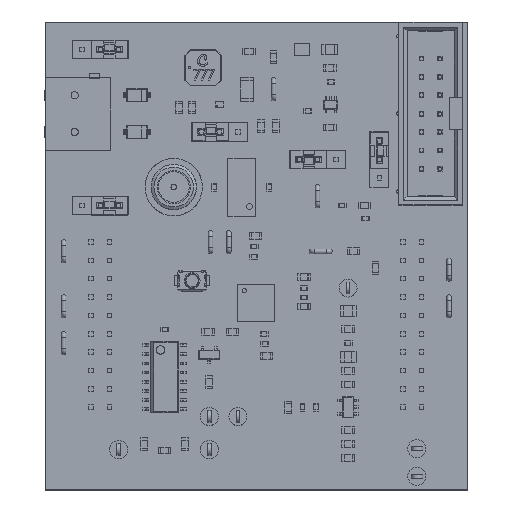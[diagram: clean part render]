
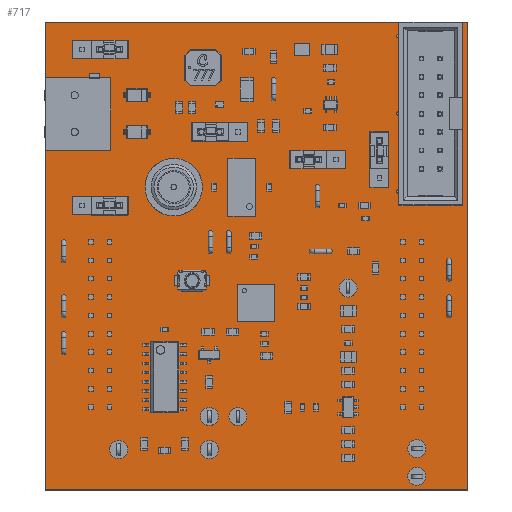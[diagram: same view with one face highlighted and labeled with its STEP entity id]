
A CAD part, top view. The second image highlights one B-rep face of the part: STEP entity #717.
In plain terms, the highlighted planar face has unit normal (0, 0, 1).
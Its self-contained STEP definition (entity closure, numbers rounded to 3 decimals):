
#403 = VERTEX_POINT('',#404);
#404 = CARTESIAN_POINT('',(58.42,0.,2.047));
#411 = PLANE('',#412);
#412 = AXIS2_PLACEMENT_3D('',#413,#414,#415);
#413 = CARTESIAN_POINT('',(58.42,0.,0.));
#414 = DIRECTION('',(-1.,0.,0.));
#415 = DIRECTION('',(0.,1.,0.));
#423 = PLANE('',#424);
#424 = AXIS2_PLACEMENT_3D('',#425,#426,#427);
#425 = CARTESIAN_POINT('',(0.,0.,0.));
#426 = DIRECTION('',(0.,1.,0.));
#427 = DIRECTION('',(1.,0.,0.));
#435 = EDGE_CURVE('',#403,#436,#438,.T.);
#436 = VERTEX_POINT('',#437);
#437 = CARTESIAN_POINT('',(58.42,64.77,2.047));
#438 = SURFACE_CURVE('',#439,(#443,#450),.PCURVE_S1.);
#439 = LINE('',#440,#441);
#440 = CARTESIAN_POINT('',(58.42,0.,2.047));
#441 = VECTOR('',#442,1.);
#442 = DIRECTION('',(0.,1.,0.));
#443 = PCURVE('',#411,#444);
#444 = DEFINITIONAL_REPRESENTATION('',(#445),#449);
#445 = LINE('',#446,#447);
#446 = CARTESIAN_POINT('',(0.,-2.047));
#447 = VECTOR('',#448,1.);
#448 = DIRECTION('',(1.,0.));
#449 = ( GEOMETRIC_REPRESENTATION_CONTEXT(2) 
PARAMETRIC_REPRESENTATION_CONTEXT() REPRESENTATION_CONTEXT('2D SPACE',''
  ) );
#450 = PCURVE('',#451,#456);
#451 = PLANE('',#452);
#452 = AXIS2_PLACEMENT_3D('',#453,#454,#455);
#453 = CARTESIAN_POINT('',(58.42,0.,2.047));
#454 = DIRECTION('',(0.,0.,-1.));
#455 = DIRECTION('',(-1.,0.,0.));
#456 = DEFINITIONAL_REPRESENTATION('',(#457),#461);
#457 = LINE('',#458,#459);
#458 = CARTESIAN_POINT('',(0.,0.));
#459 = VECTOR('',#460,1.);
#460 = DIRECTION('',(0.,1.));
#461 = ( GEOMETRIC_REPRESENTATION_CONTEXT(2) 
PARAMETRIC_REPRESENTATION_CONTEXT() REPRESENTATION_CONTEXT('2D SPACE',''
  ) );
#479 = PLANE('',#480);
#480 = AXIS2_PLACEMENT_3D('',#481,#482,#483);
#481 = CARTESIAN_POINT('',(58.42,64.77,0.));
#482 = DIRECTION('',(0.,-1.,0.));
#483 = DIRECTION('',(-1.,0.,0.));
#521 = EDGE_CURVE('',#436,#522,#524,.T.);
#522 = VERTEX_POINT('',#523);
#523 = CARTESIAN_POINT('',(0.,64.77,2.047));
#524 = SURFACE_CURVE('',#525,(#529,#536),.PCURVE_S1.);
#525 = LINE('',#526,#527);
#526 = CARTESIAN_POINT('',(58.42,64.77,2.047));
#527 = VECTOR('',#528,1.);
#528 = DIRECTION('',(-1.,0.,0.));
#529 = PCURVE('',#479,#530);
#530 = DEFINITIONAL_REPRESENTATION('',(#531),#535);
#531 = LINE('',#532,#533);
#532 = CARTESIAN_POINT('',(0.,-2.047));
#533 = VECTOR('',#534,1.);
#534 = DIRECTION('',(1.,0.));
#535 = ( GEOMETRIC_REPRESENTATION_CONTEXT(2) 
PARAMETRIC_REPRESENTATION_CONTEXT() REPRESENTATION_CONTEXT('2D SPACE',''
  ) );
#536 = PCURVE('',#451,#537);
#537 = DEFINITIONAL_REPRESENTATION('',(#538),#542);
#538 = LINE('',#539,#540);
#539 = CARTESIAN_POINT('',(0.,64.77));
#540 = VECTOR('',#541,1.);
#541 = DIRECTION('',(1.,0.));
#542 = ( GEOMETRIC_REPRESENTATION_CONTEXT(2) 
PARAMETRIC_REPRESENTATION_CONTEXT() REPRESENTATION_CONTEXT('2D SPACE',''
  ) );
#560 = PLANE('',#561);
#561 = AXIS2_PLACEMENT_3D('',#562,#563,#564);
#562 = CARTESIAN_POINT('',(0.,64.77,0.));
#563 = DIRECTION('',(1.,0.,0.));
#564 = DIRECTION('',(0.,-1.,0.));
#597 = EDGE_CURVE('',#522,#598,#600,.T.);
#598 = VERTEX_POINT('',#599);
#599 = CARTESIAN_POINT('',(0.,0.,2.047));
#600 = SURFACE_CURVE('',#601,(#605,#612),.PCURVE_S1.);
#601 = LINE('',#602,#603);
#602 = CARTESIAN_POINT('',(0.,64.77,2.047));
#603 = VECTOR('',#604,1.);
#604 = DIRECTION('',(0.,-1.,0.));
#605 = PCURVE('',#560,#606);
#606 = DEFINITIONAL_REPRESENTATION('',(#607),#611);
#607 = LINE('',#608,#609);
#608 = CARTESIAN_POINT('',(0.,-2.047));
#609 = VECTOR('',#610,1.);
#610 = DIRECTION('',(1.,0.));
#611 = ( GEOMETRIC_REPRESENTATION_CONTEXT(2) 
PARAMETRIC_REPRESENTATION_CONTEXT() REPRESENTATION_CONTEXT('2D SPACE',''
  ) );
#612 = PCURVE('',#451,#613);
#613 = DEFINITIONAL_REPRESENTATION('',(#614),#618);
#614 = LINE('',#615,#616);
#615 = CARTESIAN_POINT('',(58.42,64.77));
#616 = VECTOR('',#617,1.);
#617 = DIRECTION('',(0.,-1.));
#618 = ( GEOMETRIC_REPRESENTATION_CONTEXT(2) 
PARAMETRIC_REPRESENTATION_CONTEXT() REPRESENTATION_CONTEXT('2D SPACE',''
  ) );
#668 = EDGE_CURVE('',#598,#403,#669,.T.);
#669 = SURFACE_CURVE('',#670,(#674,#681),.PCURVE_S1.);
#670 = LINE('',#671,#672);
#671 = CARTESIAN_POINT('',(0.,0.,2.047));
#672 = VECTOR('',#673,1.);
#673 = DIRECTION('',(1.,0.,0.));
#674 = PCURVE('',#423,#675);
#675 = DEFINITIONAL_REPRESENTATION('',(#676),#680);
#676 = LINE('',#677,#678);
#677 = CARTESIAN_POINT('',(0.,-2.047));
#678 = VECTOR('',#679,1.);
#679 = DIRECTION('',(1.,0.));
#680 = ( GEOMETRIC_REPRESENTATION_CONTEXT(2) 
PARAMETRIC_REPRESENTATION_CONTEXT() REPRESENTATION_CONTEXT('2D SPACE',''
  ) );
#681 = PCURVE('',#451,#682);
#682 = DEFINITIONAL_REPRESENTATION('',(#683),#687);
#683 = LINE('',#684,#685);
#684 = CARTESIAN_POINT('',(58.42,0.));
#685 = VECTOR('',#686,1.);
#686 = DIRECTION('',(-1.,0.));
#687 = ( GEOMETRIC_REPRESENTATION_CONTEXT(2) 
PARAMETRIC_REPRESENTATION_CONTEXT() REPRESENTATION_CONTEXT('2D SPACE',''
  ) );
#717 = ADVANCED_FACE('',(#718),#451,.F.);
#718 = FACE_BOUND('',#719,.T.);
#719 = EDGE_LOOP('',(#720,#721,#722,#723));
#720 = ORIENTED_EDGE('',*,*,#435,.T.);
#721 = ORIENTED_EDGE('',*,*,#521,.T.);
#722 = ORIENTED_EDGE('',*,*,#597,.T.);
#723 = ORIENTED_EDGE('',*,*,#668,.T.);
